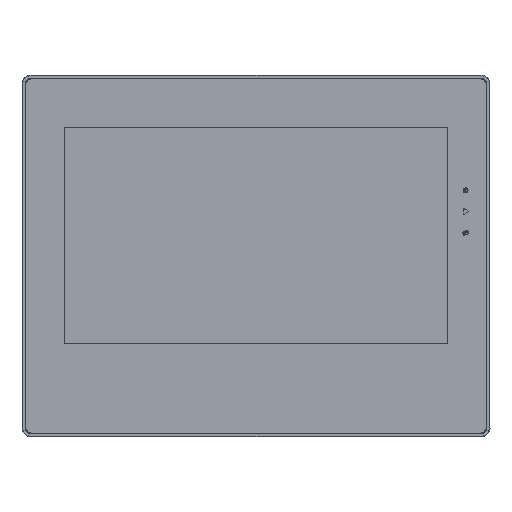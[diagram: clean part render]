
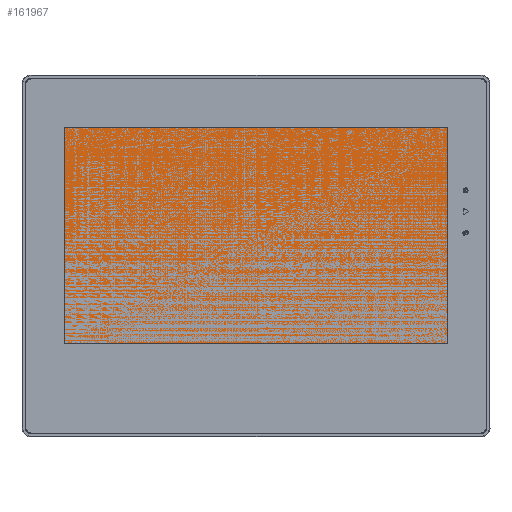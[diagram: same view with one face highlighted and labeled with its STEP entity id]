
A CAD part, top view. The second image highlights one B-rep face of the part: STEP entity #161967.
In plain terms, the highlighted planar face has unit normal (0, 0, 1).
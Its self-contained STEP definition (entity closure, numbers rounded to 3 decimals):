
#14731=FACE_OUTER_BOUND('',#24115,.T.);
#24115=EDGE_LOOP('',(#122105,#122106,#122107,#122108));
#37365=LINE('',#243694,#55145);
#37367=LINE('',#243698,#55147);
#37369=LINE('',#243702,#55149);
#37371=LINE('',#243705,#55151);
#55145=VECTOR('',#197119,1.);
#55147=VECTOR('',#197123,1.);
#55149=VECTOR('',#197127,1.);
#55151=VECTOR('',#197131,1.);
#71632=VERTEX_POINT('',#243691);
#71633=VERTEX_POINT('',#243693);
#71634=VERTEX_POINT('',#243697);
#71635=VERTEX_POINT('',#243701);
#89863=EDGE_CURVE('',#71633,#71632,#37365,.T.);
#89865=EDGE_CURVE('',#71634,#71633,#37367,.T.);
#89867=EDGE_CURVE('',#71635,#71634,#37369,.T.);
#89869=EDGE_CURVE('',#71632,#71635,#37371,.T.);
#122105=ORIENTED_EDGE('',*,*,#89863,.T.);
#122106=ORIENTED_EDGE('',*,*,#89869,.T.);
#122107=ORIENTED_EDGE('',*,*,#89867,.T.);
#122108=ORIENTED_EDGE('',*,*,#89865,.T.);
#155309=PLANE('',#172545);
#161967=ADVANCED_FACE('',(#14731),#155309,.T.);
#172545=AXIS2_PLACEMENT_3D('',#243706,#197132,#197133);
#197119=DIRECTION('',(0.,1.,0.));
#197123=DIRECTION('',(1.,0.,0.));
#197127=DIRECTION('',(0.,-1.,0.));
#197131=DIRECTION('',(-1.,0.,0.));
#197132=DIRECTION('center_axis',(0.,0.,1.));
#197133=DIRECTION('ref_axis',(1.,0.,0.));
#243691=CARTESIAN_POINT('',(112.21,75.49,20.9));
#243693=CARTESIAN_POINT('',(112.21,-51.49,20.9));
#243694=CARTESIAN_POINT('',(112.21,-51.49,20.9));
#243697=CARTESIAN_POINT('',(-112.21,-51.49,20.9));
#243698=CARTESIAN_POINT('',(-112.21,-51.49,20.9));
#243701=CARTESIAN_POINT('',(-112.21,75.49,20.9));
#243702=CARTESIAN_POINT('',(-112.21,75.49,20.9));
#243705=CARTESIAN_POINT('',(112.21,75.49,20.9));
#243706=CARTESIAN_POINT('Origin',(-1.4,12.25,20.9));
